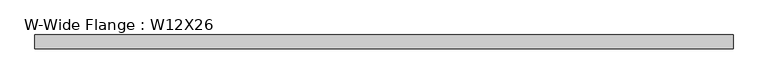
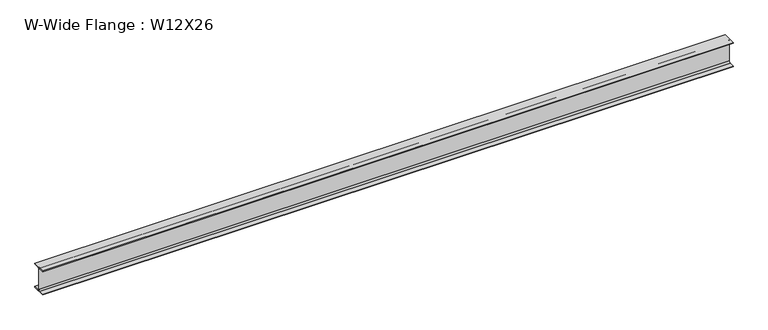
"""IFC4 building model written with IfcOpenShell, lengths in millimetres: beam geometry, W-Wide Flange : W12X26."""

from ifc_helpers import new_model, si_unit, point, frame, frame_2d, origin, place, context, project, spatial, polyline, circle_curve, trimmed, segment, composite_curve, outline, extrude, source, transform, mapped, element, save


def w_wide_flange_w12x26_0d1df96e(model_context):
    return source(origin(), model_context, "Body", "SweptSolid", [
        extrude(outline(composite_curve([segment(polyline([(82.4011719, -145.5539063), (82.4011719, -155.178125), (-82.4011719, -155.178125), (-82.4011719, -145.5539063), (-20.2902344, -145.5539063)]), True, "CONTINUOUS"), segment(trimmed(circle_curve(frame_2d((-20.2902344, -128.190625)), 17.3632812), [point((-20.2902344, -145.5539063))], [point((-2.9269531, -128.190625))], True, "CARTESIAN"), True, "CONTINUOUS"), segment(polyline([(-2.9269531, -128.190625), (-2.9269531, 128.190625)]), True, "CONTINUOUS"), segment(trimmed(circle_curve(frame_2d((-20.2902344, 128.190625)), 17.3632812), [point((-2.9269531, 128.190625))], [point((-20.2902344, 145.5539062))], True, "CARTESIAN"), True, "CONTINUOUS"), segment(polyline([(-20.2902344, 145.5539062), (-82.4011719, 145.5539062), (-82.4011719, 155.178125), (82.4011719, 155.178125), (82.4011719, 145.5539062), (20.2902344, 145.5539062)]), True, "CONTINUOUS"), segment(trimmed(circle_curve(frame_2d((20.2902344, 128.190625)), 17.3632812), [point((20.2902344, 145.5539062))], [point((2.9269531, 128.190625))], True, "CARTESIAN"), True, "CONTINUOUS"), segment(polyline([(2.9269531, 128.190625), (2.9269531, -128.190625)]), True, "CONTINUOUS"), segment(trimmed(circle_curve(frame_2d((20.2902344, -128.190625)), 17.3632812), [point((2.9269531, -128.190625))], [point((20.2902344, -145.5539063))], True, "CARTESIAN"), True, "CONTINUOUS"), segment(polyline([(20.2902344, -145.5539063), (82.4011719, -145.5539063)]), True, "CONTINUOUS")], self_intersect=False)), frame((-4196.8125131, 0.0, 0.0), z_axis=(1.0, 0.0, 0.0), x_axis=(0.0, 1.0, 0.0)), (0.0, 0.0, 1.0), 8393.6250263),
    ])


if __name__ == "__main__":
    model = new_model("IFC4")
    model_context = context("Model", 3, world=origin())
    ifc_project = project(units=[si_unit("LENGTHUNIT", "METRE", prefix="MILLI")], contexts=[model_context])
    site = spatial("IfcSite", under=ifc_project)
    building = spatial("IfcBuilding", under=site)
    placement = place(None, origin())
    w_wide_flange_w12x26_shape = w_wide_flange_w12x26_0d1df96e(model_context)
    element("IfcBeam", 1, ObjectType="W-Wide Flange : W12X26", at=placement, inside=building, context=model_context, shape_type="MappedRepresentation", body=[
        mapped(w_wide_flange_w12x26_shape, transform((0.0, 0.0, 0.0), x_axis=(1.0, 0.0, 0.0), y_axis=(0.0, 1.0, 0.0), z_axis=(0.0, 0.0, 1.0))),
    ])
    save(model, "model.ifc")
